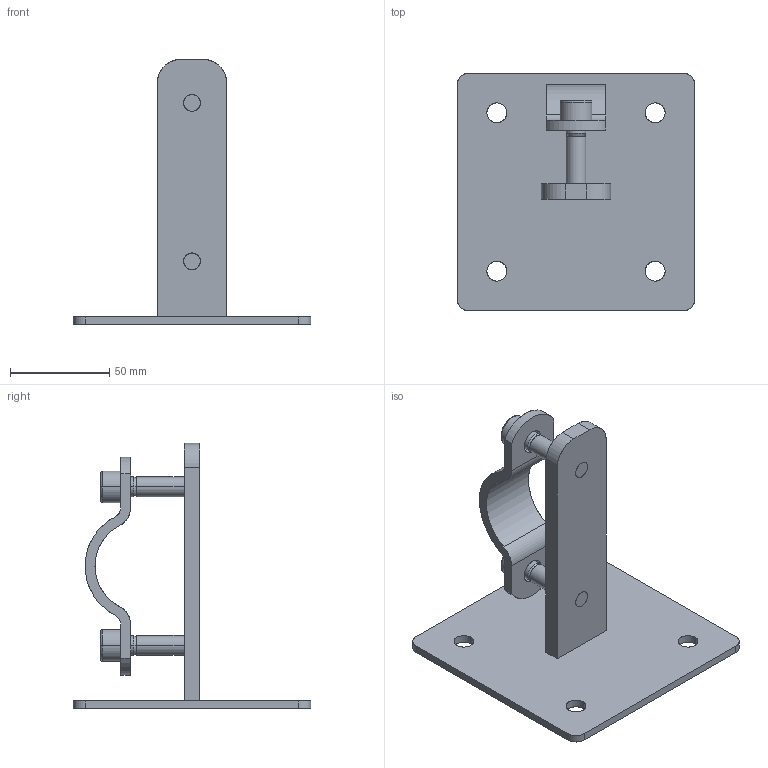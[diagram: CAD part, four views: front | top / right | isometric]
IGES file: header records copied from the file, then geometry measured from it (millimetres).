
Start section: SolidWorks IGES file using analytic representation for surfaces
Global section: file name: K:\BIBLIO\asd_biblio\Accessoires\ST50\ST50.IGS; native system: SolidWorks 2009; preprocessor: SolidWorks 2009; author: des3; date: 091023.181535; units: millimetre
Bounding box: 120 x 120 x 134 mm (x, y, z)
Surface area: 55307.4 mm2 (no closed solid volume)
Topology: 0 solids, 0 shells, 100 faces, 1668 edges, 1664 vertices
Faces by surface type: revolution 54, bspline 46
